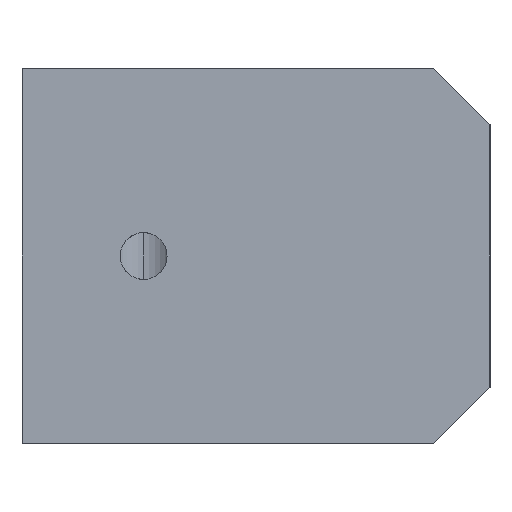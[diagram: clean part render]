
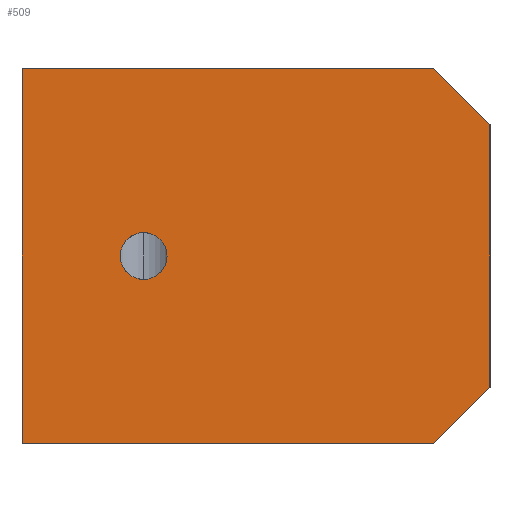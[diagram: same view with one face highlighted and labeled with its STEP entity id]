
A CAD part, left-side view. The second image highlights one B-rep face of the part: STEP entity #509.
In plain terms, the highlighted planar face has unit normal (-1, 0, 0).
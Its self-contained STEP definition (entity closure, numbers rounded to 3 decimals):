
#147 = VERTEX_POINT ( 'NONE', #2040 ) ;
#150 = EDGE_CURVE ( 'NONE', #151, #147, #2038, .T. ) ;
#151 = VERTEX_POINT ( 'NONE', #1997 ) ;
#413 = EDGE_CURVE ( 'NONE', #632, #635, #1055, .T. ) ;
#509 = ADVANCED_FACE ( 'NONE', ( #1223, #1246 ), #1207, .F. ) ;
#609 = VERTEX_POINT ( 'NONE', #1466 ) ;
#610 = EDGE_CURVE ( 'NONE', #615, #609, #1465, .T. ) ;
#615 = VERTEX_POINT ( 'NONE', #1457 ) ;
#622 = EDGE_LOOP ( 'NONE', ( #646, #652 ) ) ;
#632 = VERTEX_POINT ( 'NONE', #1509 ) ;
#635 = VERTEX_POINT ( 'NONE', #1494 ) ;
#646 = ORIENTED_EDGE ( 'NONE', *, *, #674, .F. ) ;
#648 = ORIENTED_EDGE ( 'NONE', *, *, #663, .T. ) ;
#650 = ORIENTED_EDGE ( 'NONE', *, *, #664, .T. ) ;
#652 = ORIENTED_EDGE ( 'NONE', *, *, #150, .F. ) ;
#653 = ORIENTED_EDGE ( 'NONE', *, *, #670, .F. ) ;
#662 = ORIENTED_EDGE ( 'NONE', *, *, #413, .F. ) ;
#663 = EDGE_CURVE ( 'NONE', #666, #635, #1529, .T. ) ;
#664 = EDGE_CURVE ( 'NONE', #632, #615, #1520, .T. ) ;
#666 = VERTEX_POINT ( 'NONE', #1485 ) ;
#667 = ORIENTED_EDGE ( 'NONE', *, *, #610, .T. ) ;
#669 = ORIENTED_EDGE ( 'NONE', *, *, #672, .T. ) ;
#670 = EDGE_CURVE ( 'NONE', #666, #671, #1580, .T. ) ;
#671 = VERTEX_POINT ( 'NONE', #1573 ) ;
#672 = EDGE_CURVE ( 'NONE', #609, #671, #1571, .T. ) ;
#673 = EDGE_LOOP ( 'NONE', ( #667, #669, #653, #648, #662, #650 ) ) ;
#674 = EDGE_CURVE ( 'NONE', #147, #151, #1567, .T. ) ;
#1053 = VECTOR ( 'NONE', #1114, 1000. ) ;
#1054 = CARTESIAN_POINT ( 'NONE',  ( -81., 25., 20. ) ) ;
#1055 = LINE ( 'NONE', #1054, #1053 ) ;
#1114 = DIRECTION ( 'NONE',  ( 0., -1., 0. ) ) ;
#1207 = PLANE ( 'NONE',  #1244 ) ;
#1223 = FACE_BOUND ( 'NONE', #622, .T. ) ;
#1234 = DIRECTION ( 'NONE',  ( 0., 0., -1. ) ) ;
#1235 = DIRECTION ( 'NONE',  ( 1., 0., 0. ) ) ;
#1236 = CARTESIAN_POINT ( 'NONE',  ( -81., 25., 20. ) ) ;
#1244 = AXIS2_PLACEMENT_3D ( 'NONE', #1236, #1235, #1234 ) ;
#1246 = FACE_OUTER_BOUND ( 'NONE', #673, .T. ) ;
#1457 = CARTESIAN_POINT ( 'NONE',  ( -81., 25., 0. ) ) ;
#1458 = DIRECTION ( 'NONE',  ( 0., -1., 0. ) ) ;
#1459 = VECTOR ( 'NONE', #1458, 1000. ) ;
#1460 = CARTESIAN_POINT ( 'NONE',  ( -81., 25., 0. ) ) ;
#1465 = LINE ( 'NONE', #1460, #1459 ) ;
#1466 = CARTESIAN_POINT ( 'NONE',  ( -81., 3., 0. ) ) ;
#1485 = CARTESIAN_POINT ( 'NONE',  ( -81., 0., 17. ) ) ;
#1494 = CARTESIAN_POINT ( 'NONE',  ( -81., 3., 20. ) ) ;
#1509 = CARTESIAN_POINT ( 'NONE',  ( -81., 25., 20. ) ) ;
#1517 = DIRECTION ( 'NONE',  ( 0., 0., -1. ) ) ;
#1518 = VECTOR ( 'NONE', #1517, 1000. ) ;
#1519 = CARTESIAN_POINT ( 'NONE',  ( -81., 25., 20. ) ) ;
#1520 = LINE ( 'NONE', #1519, #1518 ) ;
#1521 = VECTOR ( 'NONE', #1525, 1000. ) ;
#1525 = DIRECTION ( 'NONE',  ( 0., 0.707, 0.707 ) ) ;
#1526 = CARTESIAN_POINT ( 'NONE',  ( -81., 3., 20. ) ) ;
#1529 = LINE ( 'NONE', #1526, #1521 ) ;
#1558 = DIRECTION ( 'NONE',  ( 0., 0., 1. ) ) ;
#1563 = DIRECTION ( 'NONE',  ( 0., -0.707, 0.707 ) ) ;
#1564 = VECTOR ( 'NONE', #1563, 1000. ) ;
#1565 = CARTESIAN_POINT ( 'NONE',  ( -81., 0., 3. ) ) ;
#1567 = CIRCLE ( 'NONE', #1579, 1.25 ) ;
#1570 = VECTOR ( 'NONE', #1575, 1000. ) ;
#1571 = LINE ( 'NONE', #1565, #1564 ) ;
#1572 = CARTESIAN_POINT ( 'NONE',  ( -81., 18.5, 10. ) ) ;
#1573 = CARTESIAN_POINT ( 'NONE',  ( -81., 0., 3. ) ) ;
#1574 = DIRECTION ( 'NONE',  ( -1., 0., 0. ) ) ;
#1575 = DIRECTION ( 'NONE',  ( 0., 0., -1. ) ) ;
#1576 = CARTESIAN_POINT ( 'NONE',  ( -81., 0., 20. ) ) ;
#1579 = AXIS2_PLACEMENT_3D ( 'NONE', #1572, #1574, #1558 ) ;
#1580 = LINE ( 'NONE', #1576, #1570 ) ;
#1995 = AXIS2_PLACEMENT_3D ( 'NONE', #2023, #2022, #2021 ) ;
#1997 = CARTESIAN_POINT ( 'NONE',  ( -81., 18.5, 8.75 ) ) ;
#2021 = DIRECTION ( 'NONE',  ( 0., 0., 1. ) ) ;
#2022 = DIRECTION ( 'NONE',  ( -1., 0., 0. ) ) ;
#2023 = CARTESIAN_POINT ( 'NONE',  ( -81., 18.5, 10. ) ) ;
#2038 = CIRCLE ( 'NONE', #1995, 1.25 ) ;
#2040 = CARTESIAN_POINT ( 'NONE',  ( -81., 18.5, 11.25 ) ) ;
